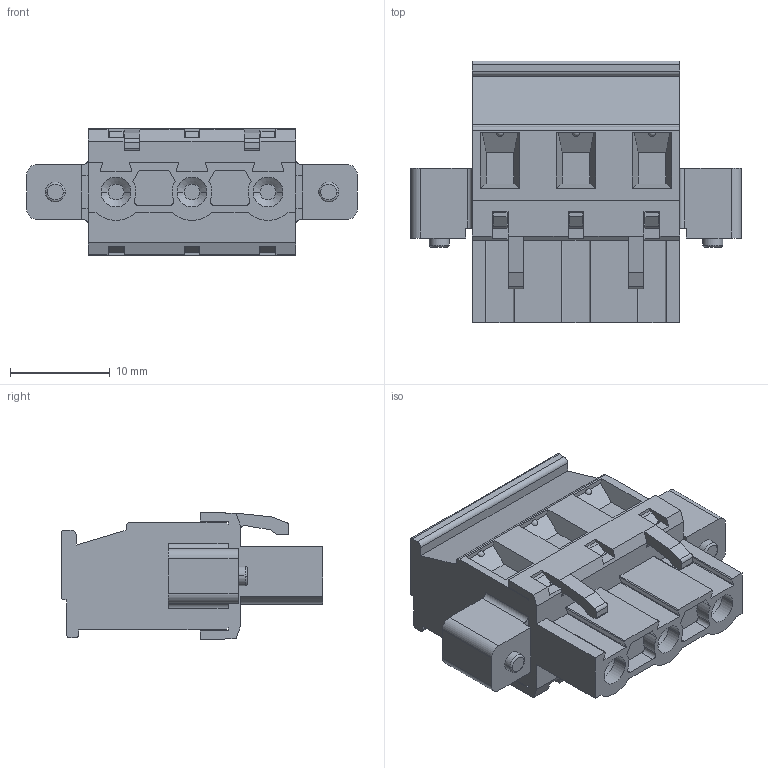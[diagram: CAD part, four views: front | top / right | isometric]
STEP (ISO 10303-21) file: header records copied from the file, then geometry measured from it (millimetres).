
FILE_DESCRIPTION((''),'2;1');
FILE_NAME('33','2019-04-10T',('zhenbing.lai'),(''),'CREO PARAMETRIC BY PTC INC, 2016260','CREO PARAMETRIC BY PTC INC, 2016260','');
FILE_SCHEMA(('CONFIG_CONTROL_DESIGN'));
Length unit declared in the file: millimetre
Products named in the file (1): 33
Bounding box: 33.14 x 26.25 x 12.73 mm (x, y, z)
Volume: 4959.2 mm3; surface area: 3655.5 mm2
Topology: 1 solids, 10 shells, 506 faces, 1489 edges, 1004 vertices
Faces by surface type: plane 348, cylinder 97, cone 38, torus 20, sphere 3
Entity records: 17874 total; most frequent: CARTESIAN_POINT 4338, ORIENTED_EDGE 2972, DIRECTION 2634, EDGE_CURVE 1486, VERTEX_POINT 1004, VECTOR 930, LINE 930, AXIS2_PLACEMENT_3D 852
